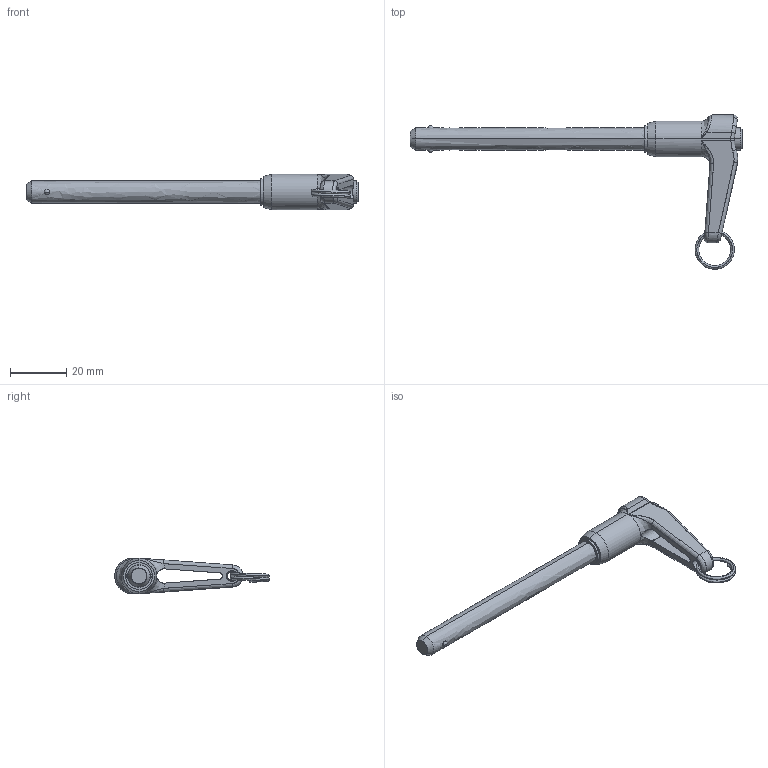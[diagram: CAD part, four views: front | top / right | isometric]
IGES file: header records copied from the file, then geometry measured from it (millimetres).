
Start section: SolidWorks IGES file using analytic representation for surfaces
Global section: file name: C:\Documents and Settings\IANO\My Documents\Wix and Auto CAD Work\CAD Models\Parametric Models\Wix Models\30000\33620_v2\33620_v2_20160606_IGES\33620.C030.igs; native system: SolidWorks 2009; preprocessor: SolidWorks 2009; author: IANO; date: 160615.125917; units: inch
Bounding box: 118.45 x 55.09 x 12.7 mm (x, y, z)
Surface area: 6841.7 mm2 (no closed solid volume)
Topology: 0 solids, 0 shells, 85 faces, 1226 edges, 1224 vertices
Faces by surface type: bspline 55, revolution 30
